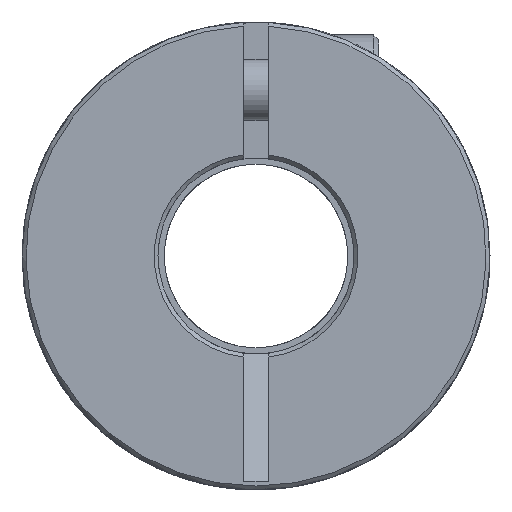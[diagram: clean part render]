
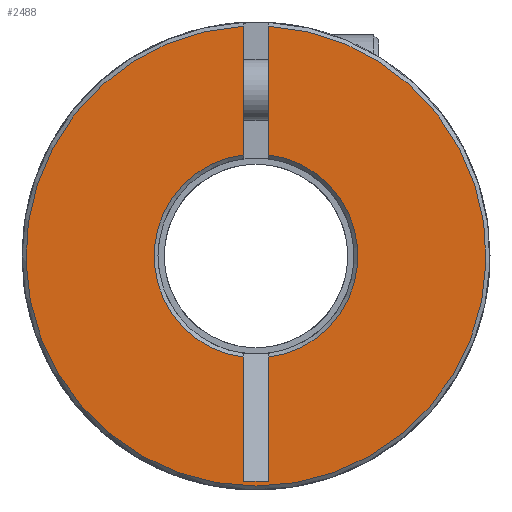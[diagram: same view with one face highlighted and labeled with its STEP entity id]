
A CAD part, front view. The second image highlights one B-rep face of the part: STEP entity #2488.
In plain terms, the highlighted planar face has unit normal (0, -1, 0).
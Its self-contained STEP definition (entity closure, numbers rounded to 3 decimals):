
#1=DIRECTION('',(0.,0.,-1.));
#2=VECTOR('',#1,5.247);
#3=CARTESIAN_POINT('',(-0.5,-14.,9.377));
#4=LINE('',#3,#2);
#5=DIRECTION('',(0.,0.,-1.));
#6=VECTOR('',#5,5.07);
#7=CARTESIAN_POINT('',(-0.5,-14.,-4.13));
#8=LINE('',#7,#6);
#9=DIRECTION('',(1.,0.,0.));
#10=VECTOR('',#9,1.);
#11=CARTESIAN_POINT('',(-0.5,-14.,-9.2));
#12=LINE('',#11,#10);
#13=DIRECTION('',(0.,0.,-1.));
#14=VECTOR('',#13,5.07);
#15=CARTESIAN_POINT('',(0.5,-14.,-4.13));
#16=LINE('',#15,#14);
#17=DIRECTION('',(0.,0.,-1.));
#18=VECTOR('',#17,5.247);
#19=CARTESIAN_POINT('',(0.5,-14.,9.377));
#20=LINE('',#19,#18);
#35=CARTESIAN_POINT('',(0.,-14.,0.));
#36=DIRECTION('',(0.,-1.,0.));
#37=DIRECTION('',(-0.053,0.,0.999));
#38=AXIS2_PLACEMENT_3D('',#35,#36,#37);
#80=CARTESIAN_POINT('',(0.,-14.,0.));
#81=DIRECTION('',(0.,1.,0.));
#82=DIRECTION('',(-0.12,0.,-0.993));
#83=AXIS2_PLACEMENT_3D('',#80,#81,#82);
#92=CARTESIAN_POINT('',(0.,-14.,0.));
#93=DIRECTION('',(0.,1.,0.));
#94=DIRECTION('',(0.12,0.,0.993));
#95=AXIS2_PLACEMENT_3D('',#92,#93,#94);
#2319=CARTESIAN_POINT('',(-0.5,-14.,9.377));
#2320=CARTESIAN_POINT('',(-0.5,-14.,4.13));
#2321=VERTEX_POINT('',#2319);
#2322=VERTEX_POINT('',#2320);
#2323=CARTESIAN_POINT('',(-0.5,-14.,-4.13));
#2324=CARTESIAN_POINT('',(-0.5,-14.,-9.2));
#2325=VERTEX_POINT('',#2323);
#2326=VERTEX_POINT('',#2324);
#2327=CARTESIAN_POINT('',(0.5,-14.,9.377));
#2328=CARTESIAN_POINT('',(0.5,-14.,4.13));
#2329=VERTEX_POINT('',#2327);
#2330=VERTEX_POINT('',#2328);
#2331=CARTESIAN_POINT('',(0.5,-14.,-4.13));
#2332=CARTESIAN_POINT('',(0.5,-14.,-9.2));
#2333=VERTEX_POINT('',#2331);
#2334=VERTEX_POINT('',#2332);
#2465=CARTESIAN_POINT('',(0.,-14.,0.));
#2466=DIRECTION('',(0.,1.,0.));
#2467=DIRECTION('',(1.,0.,0.));
#2468=AXIS2_PLACEMENT_3D('',#2465,#2466,#2467);
#2469=PLANE('',#2468);
#2471=ORIENTED_EDGE('',*,*,#2470,.T.);
#2473=ORIENTED_EDGE('',*,*,#2472,.F.);
#2475=ORIENTED_EDGE('',*,*,#2474,.T.);
#2477=ORIENTED_EDGE('',*,*,#2476,.T.);
#2479=ORIENTED_EDGE('',*,*,#2478,.F.);
#2481=ORIENTED_EDGE('',*,*,#2480,.F.);
#2483=ORIENTED_EDGE('',*,*,#2482,.F.);
#2485=ORIENTED_EDGE('',*,*,#2484,.F.);
#2486=EDGE_LOOP('',(#2471,#2473,#2475,#2477,#2479,#2481,#2483,#2485));
#2487=FACE_OUTER_BOUND('',#2486,.F.);
#2488=ADVANCED_FACE('',(#2487),#2469,.F.);
#39=CIRCLE('',#38,9.39);
#84=CIRCLE('',#83,4.16);
#96=CIRCLE('',#95,4.16);
#2470=EDGE_CURVE('',#2321,#2322,#4,.T.);
#2472=EDGE_CURVE('',#2325,#2322,#84,.T.);
#2474=EDGE_CURVE('',#2325,#2326,#8,.T.);
#2476=EDGE_CURVE('',#2326,#2334,#12,.T.);
#2478=EDGE_CURVE('',#2333,#2334,#16,.T.);
#2480=EDGE_CURVE('',#2330,#2333,#96,.T.);
#2482=EDGE_CURVE('',#2329,#2330,#20,.T.);
#2484=EDGE_CURVE('',#2321,#2329,#39,.T.);
